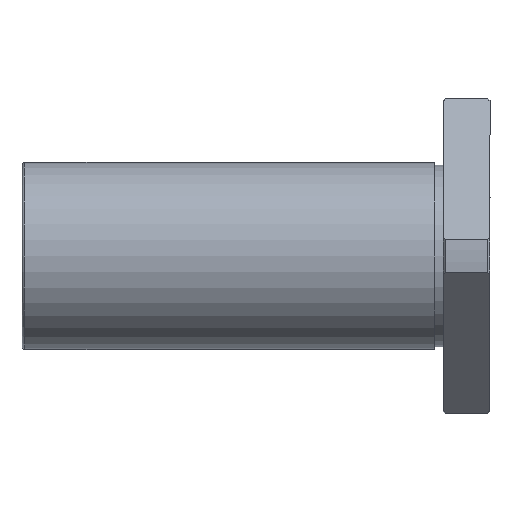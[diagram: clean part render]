
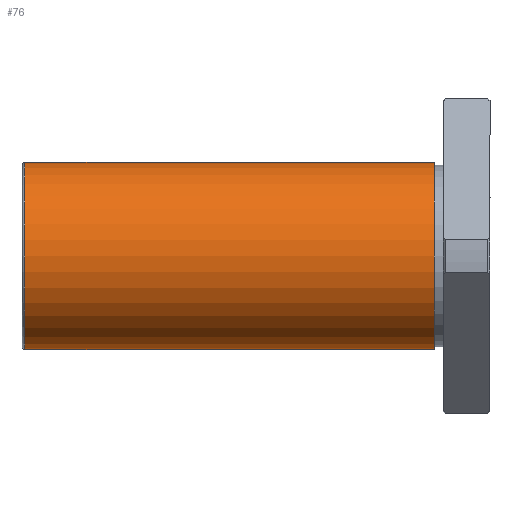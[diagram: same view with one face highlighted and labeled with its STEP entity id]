
A CAD part, front view. The second image highlights one B-rep face of the part: STEP entity #76.
In plain terms, the highlighted cylindrical face has radius 16 mm (diameter 32 mm), a full revolution.
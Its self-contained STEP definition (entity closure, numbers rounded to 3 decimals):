
#76=ADVANCED_FACE('',(#115,#116),#117,.T.);
#115=FACE_OUTER_BOUND('',#215,.T.);
#116=FACE_OUTER_BOUND('',#216,.T.);
#117=CYLINDRICAL_SURFACE('',#217,16.0);
#215=EDGE_LOOP('',(#317));
#216=EDGE_LOOP('',(#318));
#217=AXIS2_PLACEMENT_3D('',#319,#320,#321);
#317=ORIENTED_EDGE('',*,*,#563,.F.);
#318=ORIENTED_EDGE('',*,*,#564,.T.);
#319=CARTESIAN_POINT('',(-25.5,0.,0.0));
#320=DIRECTION('',(1.0,-0.0,0.));
#321=DIRECTION('',(0.0,1.0,0.0));
#563=EDGE_CURVE('',#635,#635,#636,.T.);
#564=EDGE_CURVE('',#637,#637,#638,.T.);
#635=VERTEX_POINT('',#761);
#636=CIRCLE('',#762,16.0);
#637=VERTEX_POINT('',#763);
#638=CIRCLE('',#764,16.0);
#761=CARTESIAN_POINT('',(-9.5,16.0,0.0));
#762=AXIS2_PLACEMENT_3D('',#952,#953,#954);
#763=CARTESIAN_POINT('',(-79.5,16.0,0.));
#764=AXIS2_PLACEMENT_3D('',#955,#956,#957);
#952=CARTESIAN_POINT('',(-9.5,0.0,0.0));
#953=DIRECTION('',(1.0,0.0,0.));
#954=DIRECTION('',(0.0,1.0,0.0));
#955=CARTESIAN_POINT('',(-79.5,0.,0.));
#956=DIRECTION('',(1.0,0.0,0.));
#957=DIRECTION('',(0.0,1.0,0.0));
